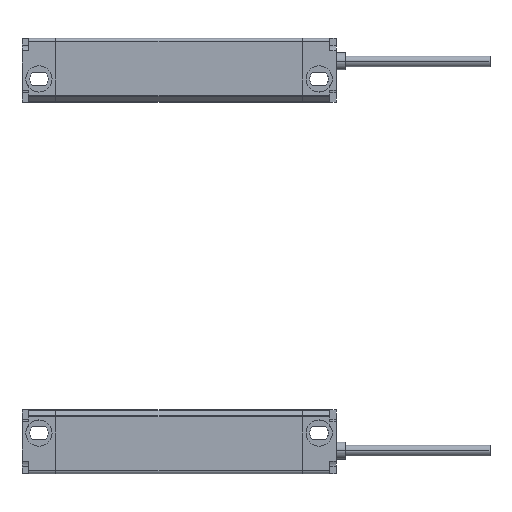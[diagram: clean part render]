
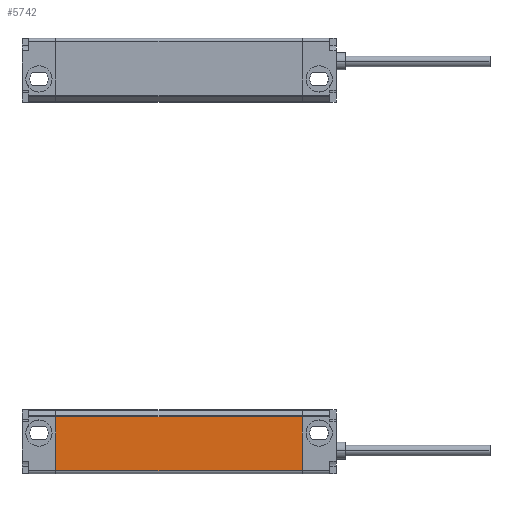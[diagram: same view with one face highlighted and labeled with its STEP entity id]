
A CAD part, left-side view. The second image highlights one B-rep face of the part: STEP entity #5742.
In plain terms, the highlighted planar face has unit normal (-1, 0, 0).
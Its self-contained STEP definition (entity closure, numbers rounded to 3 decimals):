
#306 = CARTESIAN_POINT ( 'NONE',  ( -12.5, 0., -9.2 ) ) ;
#325 = VERTEX_POINT ( 'NONE', #5324 ) ;
#534 = CARTESIAN_POINT ( 'NONE',  ( -12.5, 0., 8.293 ) ) ;
#577 = EDGE_CURVE ( 'NONE', #1797, #642, #4069, .T. ) ;
#642 = VERTEX_POINT ( 'NONE', #5898 ) ;
#708 = ORIENTED_EDGE ( 'NONE', *, *, #577, .F. ) ;
#1023 = VERTEX_POINT ( 'NONE', #534 ) ;
#1797 = VERTEX_POINT ( 'NONE', #9012 ) ;
#2000 = DIRECTION ( 'NONE',  ( 0., 1., 0. ) ) ;
#2930 = PLANE ( 'NONE',  #4828 ) ;
#3009 = EDGE_LOOP ( 'NONE', ( #6604, #708, #6165, #7853 ) ) ;
#3186 = VECTOR ( 'NONE', #2000, 1000. ) ;
#3276 = DIRECTION ( 'NONE',  ( 0., 1., 0. ) ) ;
#3689 = DIRECTION ( 'NONE',  ( 0., 0., 1. ) ) ;
#3957 = LINE ( 'NONE', #9941, #3186 ) ;
#4008 = CARTESIAN_POINT ( 'NONE',  ( -12.5, -80., -9.2 ) ) ;
#4069 = LINE ( 'NONE', #4008, #5117 ) ;
#4651 = CARTESIAN_POINT ( 'NONE',  ( -12.5, -80., -9.2 ) ) ;
#4686 = EDGE_CURVE ( 'NONE', #642, #1023, #10318, .T. ) ;
#4828 = AXIS2_PLACEMENT_3D ( 'NONE', #4651, #5524, #3689 ) ;
#5117 = VECTOR ( 'NONE', #3276, 1000. ) ;
#5324 = CARTESIAN_POINT ( 'NONE',  ( -12.5, -80., 8.293 ) ) ;
#5524 = DIRECTION ( 'NONE',  ( -1., 0., 0. ) ) ;
#5742 = ADVANCED_FACE ( 'NONE', ( #10307 ), #2930, .T. ) ;
#5860 = DIRECTION ( 'NONE',  ( 0., 0., 1. ) ) ;
#5898 = CARTESIAN_POINT ( 'NONE',  ( -12.5, 0., -9.2 ) ) ;
#5954 = VECTOR ( 'NONE', #5860, 1000. ) ;
#6165 = ORIENTED_EDGE ( 'NONE', *, *, #6903, .T. ) ;
#6604 = ORIENTED_EDGE ( 'NONE', *, *, #4686, .F. ) ;
#6903 = EDGE_CURVE ( 'NONE', #1797, #325, #8259, .T. ) ;
#7853 = ORIENTED_EDGE ( 'NONE', *, *, #9460, .T. ) ;
#8259 = LINE ( 'NONE', #9896, #5954 ) ;
#8765 = DIRECTION ( 'NONE',  ( 0., 0., 1. ) ) ;
#9012 = CARTESIAN_POINT ( 'NONE',  ( -12.5, -80., -9.2 ) ) ;
#9460 = EDGE_CURVE ( 'NONE', #325, #1023, #3957, .T. ) ;
#9896 = CARTESIAN_POINT ( 'NONE',  ( -12.5, -80., -9.2 ) ) ;
#9941 = CARTESIAN_POINT ( 'NONE',  ( -12.5, -80., 8.293 ) ) ;
#10307 = FACE_OUTER_BOUND ( 'NONE', #3009, .T. ) ;
#10318 = LINE ( 'NONE', #306, #10715 ) ;
#10715 = VECTOR ( 'NONE', #8765, 1000. ) ;
